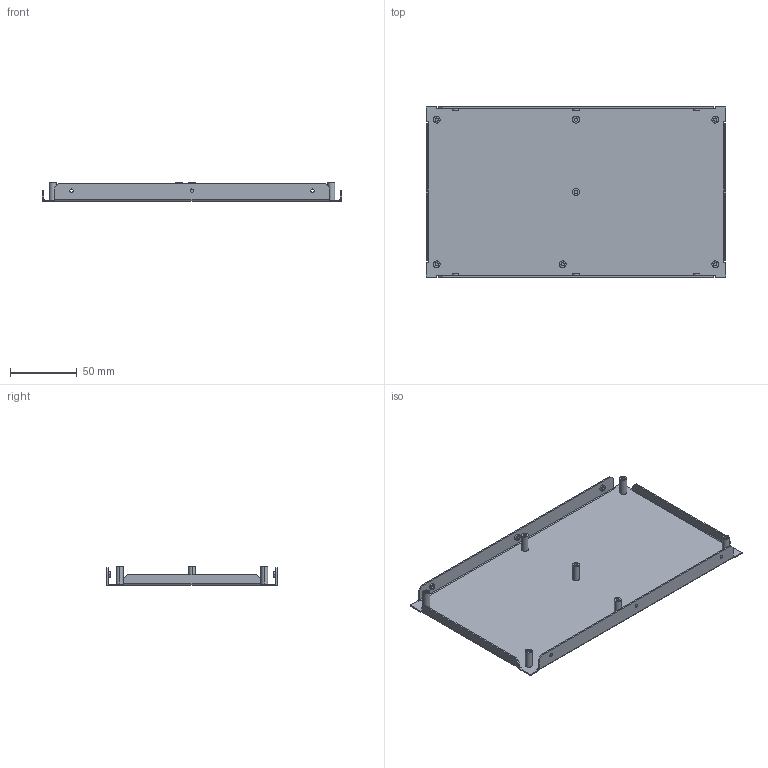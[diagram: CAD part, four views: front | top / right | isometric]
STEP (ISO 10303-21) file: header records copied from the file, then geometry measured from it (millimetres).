
FILE_DESCRIPTION((''),'2;1');
FILE_NAME('MC3T03_BOTCASE','2024-04-30T',('Administrator'),(''),'PRO/ENGINEER BY PARAMETRIC TECHNOLOGY CORPORATION, 2010280','PRO/ENGINEER BY PARAMETRIC TECHNOLOGY CORPORATION, 2010280','');
FILE_SCHEMA(('CONFIG_CONTROL_DESIGN'));
Length unit declared in the file: millimetre
Products named in the file (1): MC3T03_BOTCASE
Bounding box: 223.4 x 127.4 x 14 mm (x, y, z)
Volume: 36047 mm3; surface area: 72154.4 mm2
Topology: 1 solids, 1 shells, 138 faces, 332 edges, 216 vertices
Faces by surface type: plane 74, cylinder 64
Entity records: 4098 total; most frequent: DIRECTION 736, CARTESIAN_POINT 686, ORIENTED_EDGE 664, EDGE_CURVE 332, AXIS2_PLACEMENT_3D 266, VERTEX_POINT 216, VECTOR 204, LINE 204
